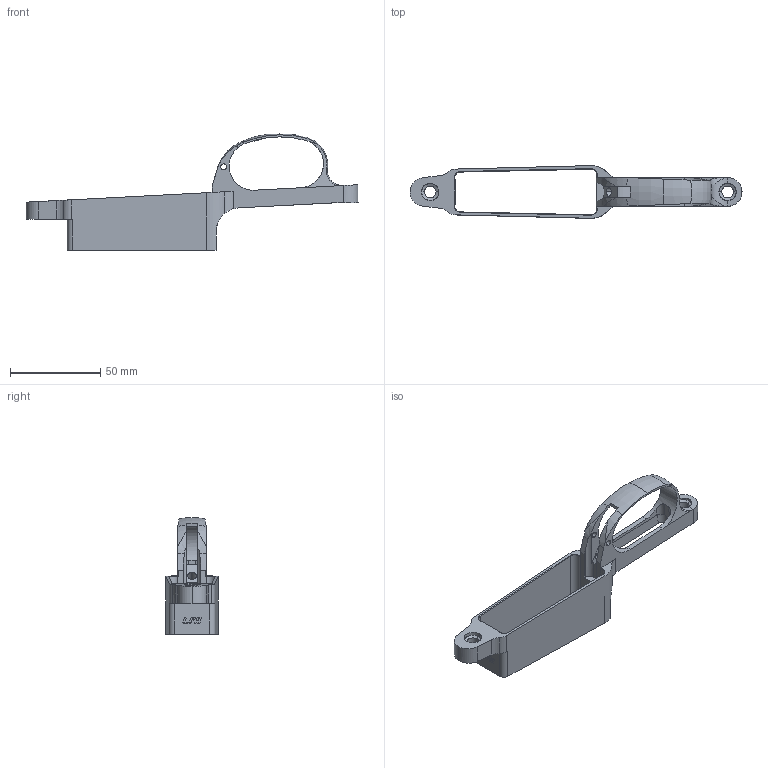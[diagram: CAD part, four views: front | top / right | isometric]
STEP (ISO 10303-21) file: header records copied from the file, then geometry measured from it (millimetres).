
FILE_DESCRIPTION (( 'STEP AP214' ), '1' );
FILE_NAME ('LRI M700 SA HTR DBM_1.STEP', '2019-08-16T22:15:51', ( '' ), ( '' ), 'SwSTEP 2.0', 'SolidWorks 2019', '' );
FILE_SCHEMA (( 'AUTOMOTIVE_DESIGN' ));
Length unit declared in the file: inch
Products named in the file (1): LRI M700 SA HTR DBM_1
Bounding box: 184.11 x 29.21 x 64.77 mm (x, y, z)
Volume: 26511.6 mm3; surface area: 22199.7 mm2
Topology: 1 solids, 1 shells, 154 faces, 446 edges, 294 vertices
Faces by surface type: plane 71, cylinder 56, bspline 14, torus 9, cone 4
Entity records: 6551 total; most frequent: CARTESIAN_POINT 2623, ORIENTED_EDGE 892, DIRECTION 710, EDGE_CURVE 446, VERTEX_POINT 294, AXIS2_PLACEMENT_3D 237, LINE 236, VECTOR 236
